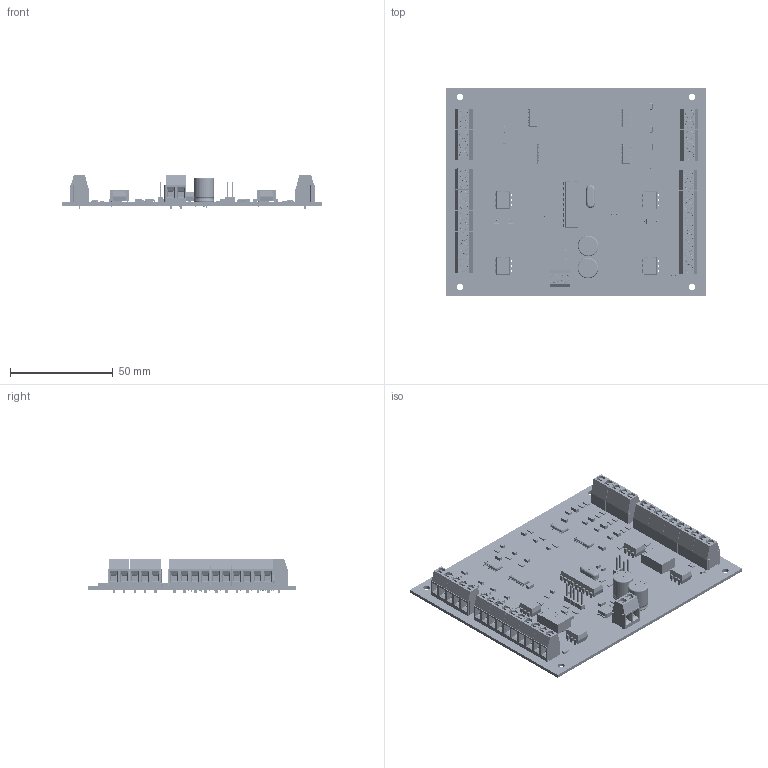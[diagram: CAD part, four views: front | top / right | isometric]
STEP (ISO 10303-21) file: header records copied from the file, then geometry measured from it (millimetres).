
FILE_DESCRIPTION(('Open CASCADE Model'),'2;1');
FILE_NAME('Open CASCADE Shape Model','2011-01-29T06:58:02',('Author'),( 'Open CASCADE'),'Open CASCADE STEP processor 6.2','Open CASCADE 6.2' ,'Unknown');
FILE_SCHEMA(('AUTOMOTIVE_DESIGN { 1 0 10303 214 1 1 1 1 }'));
Length unit declared in the file: millimetre
Products named in the file (126): PCB; Board; U4; DIP18-300; TB10; TERMINAL_BLOCK-2POS-20020316-G02; 20020316-G-LEM; 20020316-G-REM; K4; DIP06-300; TB13; TERMINAL_BLOCK-3POS-20020316-G03; 20020316-G-CM; TB14; K3; U3; 519417712; K1; TB9; D2; SOD123-DEFAULT; TB15; D8; D6; C11; 1206-CAPACITOR_chip; TB11; TB12; K2; relay-Relais_TQ2SA; D1; RB1; 1206_resistor; R29; K6; U5; SW3dPS-SOIC16-150; X1; CRYSTAL-hc49_LEADED; C8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
Assembly tree (210 placements, depth 4):
  PCB
    Board
    U4
      DIP18-300
    TB10
      TERMINAL_BLOCK-2POS-20020316-G02
        20020316-G-LEM
        20020316-G-REM
    K4
      DIP06-300
    TB13
      TERMINAL_BLOCK-3POS-20020316-G03
        20020316-G-REM
        20020316-G-CM
        20020316-G-LEM
    TB14
      TERMINAL_BLOCK-2POS-20020316-G02
        20020316-G-LEM
        20020316-G-REM
    K3
      DIP06-300
    U3
      519417712
    K1
      DIP06-300
    TB9
      TERMINAL_BLOCK-2POS-20020316-G02
        20020316-G-LEM
        20020316-G-REM
    D2
      SOD123-DEFAULT
    TB15
      TERMINAL_BLOCK-2POS-20020316-G02
        20020316-G-LEM
        20020316-G-REM
    D8
      SOD123-DEFAULT
    D6
      SOD123-DEFAULT
    C11
      1206-CAPACITOR_chip
    TB11
      TERMINAL_BLOCK-2POS-20020316-G02
        20020316-G-LEM
        20020316-G-REM
    TB12
      TERMINAL_BLOCK-2POS-20020316-G02
        20020316-G-LEM
        20020316-G-REM
    K2
      relay-Relais_TQ2SA
    D1
      SOD123-DEFAULT
    RB1
      1206_resistor
    R29
      1206_resistor
    K6
      DIP06-300
    U5
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Bounding box: 127 x 101.6 x 17 mm (x, y, z)
Volume: 40983.8 mm3; surface area: 55979.2 mm2
Topology: 120 solids, 120 shells, 10408 faces, 27048 edges, 17328 vertices
Faces by surface type: plane 6677, cylinder 1751, bspline 1556, torus 180, sphere 164, cone 68, revolution 12
Full cylindrical faces by diameter (mm): 0.635 x2, 0.9 x42, 0.965 x24, 1.067 x9, 1.3 x32, 3.2 x4
Entity records: 207431 total; most frequent: CARTESIAN_POINT 61055, DIRECTION 23715, LINE 14752, VECTOR 14752, ORIENTED_EDGE 14072, PCURVE 14072, DEFINITIONAL_REPRESENTATION 14072, EDGE_CURVE 7036
